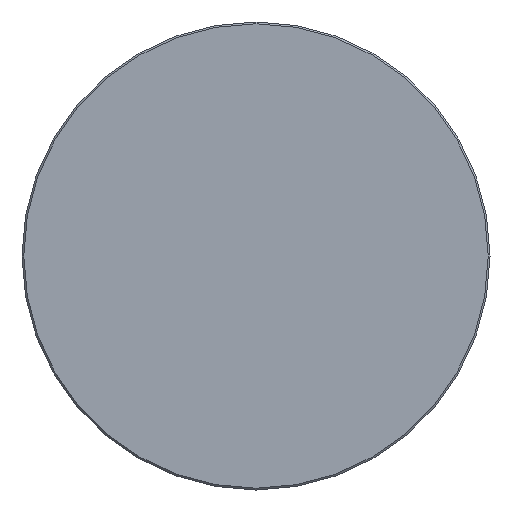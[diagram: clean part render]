
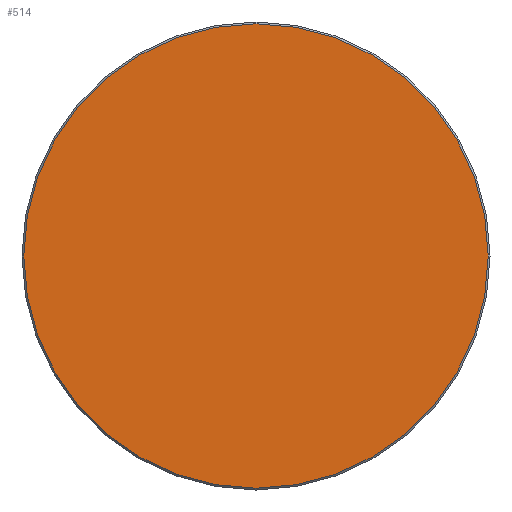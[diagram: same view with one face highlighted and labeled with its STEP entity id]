
A CAD part, left-side view. The second image highlights one B-rep face of the part: STEP entity #514.
In plain terms, the highlighted planar face has unit normal (-1, 0, 0).
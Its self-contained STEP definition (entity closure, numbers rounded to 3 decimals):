
#24 = CARTESIAN_POINT ( 'NONE',  ( 0., 0., 0. ) ) ;
#26 = PLANE ( 'NONE',  #63 ) ;
#36 = DIRECTION ( 'NONE',  ( 0., 0., 1. ) ) ;
#49 = EDGE_LOOP ( 'NONE', ( #503, #359 ) ) ;
#63 = AXIS2_PLACEMENT_3D ( 'NONE', #24, #413, #406 ) ;
#90 = DIRECTION ( 'NONE',  ( 0., 0., 1. ) ) ;
#97 = CARTESIAN_POINT ( 'NONE',  ( 0., 0., 0. ) ) ;
#160 = VERTEX_POINT ( 'NONE', #267 ) ;
#177 = FACE_OUTER_BOUND ( 'NONE', #49, .T. ) ;
#267 = CARTESIAN_POINT ( 'NONE',  ( 0., 0., -38.7 ) ) ;
#311 = CARTESIAN_POINT ( 'NONE',  ( 0., 0., 38.7 ) ) ;
#359 = ORIENTED_EDGE ( 'NONE', *, *, #592, .T. ) ;
#362 = CARTESIAN_POINT ( 'NONE',  ( 0., 0., 0. ) ) ;
#371 = AXIS2_PLACEMENT_3D ( 'NONE', #97, #640, #36 ) ;
#406 = DIRECTION ( 'NONE',  ( 0., 0., -1. ) ) ;
#413 = DIRECTION ( 'NONE',  ( 1., 0., 0. ) ) ;
#431 = DIRECTION ( 'NONE',  ( -1., 0., 0. ) ) ;
#433 = CIRCLE ( 'NONE', #371, 38.7 ) ;
#476 = CIRCLE ( 'NONE', #508, 38.7 ) ;
#503 = ORIENTED_EDGE ( 'NONE', *, *, #559, .T. ) ;
#508 = AXIS2_PLACEMENT_3D ( 'NONE', #362, #431, #90 ) ;
#514 = ADVANCED_FACE ( 'NONE', ( #177 ), #26, .F. ) ;
#559 = EDGE_CURVE ( 'NONE', #160, #662, #476, .T. ) ;
#592 = EDGE_CURVE ( 'NONE', #662, #160, #433, .T. ) ;
#640 = DIRECTION ( 'NONE',  ( -1., 0., 0. ) ) ;
#662 = VERTEX_POINT ( 'NONE', #311 ) ;
